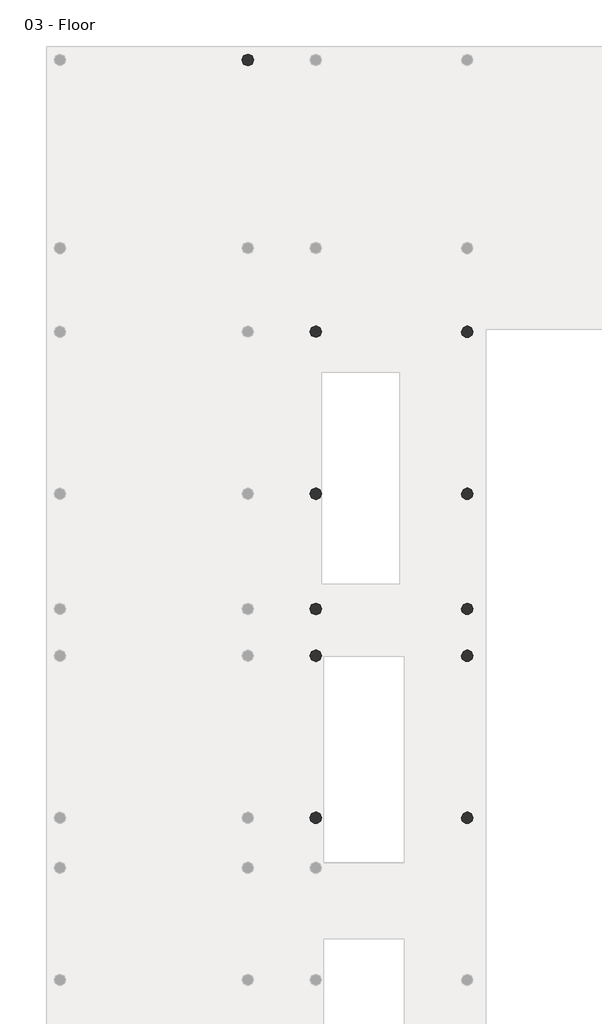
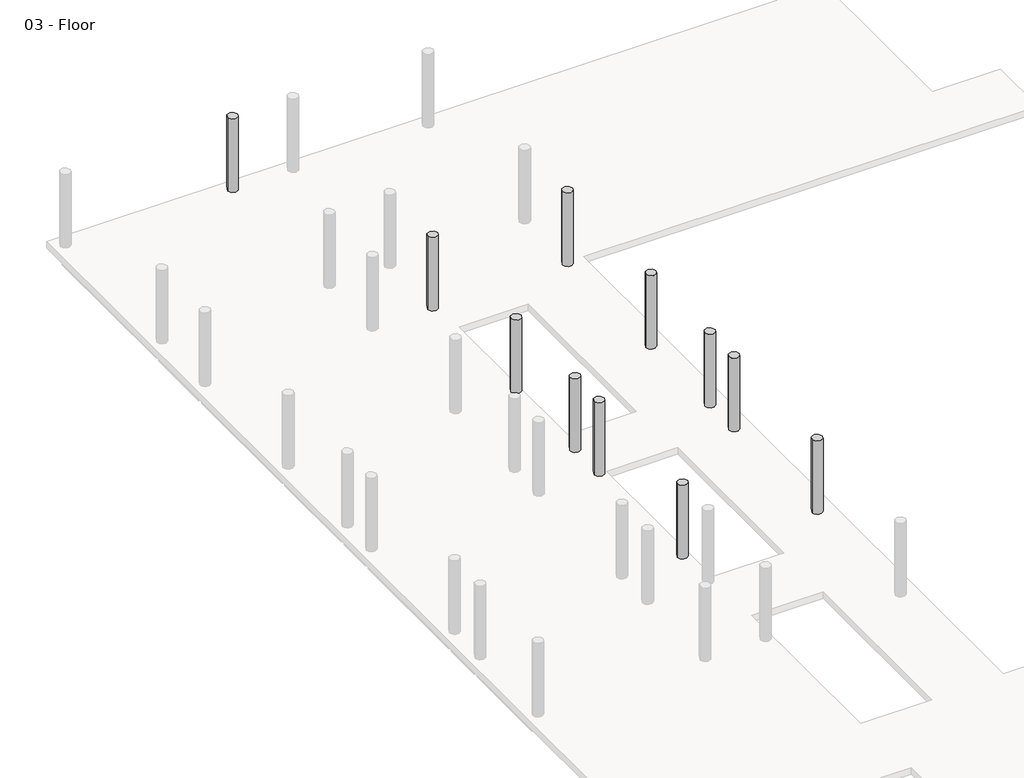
# One storey, part 7 of 8: 14 beams, 11 columns.
"""IFC4 building model written with IfcOpenShell, lengths in millimetres."""

from ifc_helpers import new_model, si_unit, point, frame, frame_2d, origin, place, context, project, spatial, polyline, circle_curve, trimmed, segment, composite_curve, outline, extrude, element, save
from ifc_brep_helpers import plane_surface, revolved_surface, advanced_brep

model = new_model("IFC4")

# Units and contexts
model_context = context("Model", 3, world=origin())
ifc_project = project(units=[si_unit("LENGTHUNIT", "METRE", prefix="MILLI")], contexts=[model_context])

# Site, building, storey
site = spatial("IfcSite", under=ifc_project)
building = spatial("IfcBuilding", under=site)
storey = spatial("IfcBuildingStorey", under=building, Name="03 - Floor", Elevation=7600.0)

# Beams
placement = place(None, origin())
element("IfcBeam", 1, ObjectType="M_Concrete-Rectangular Beam : 400 x 800mm", at=placement, inside=storey, context=model_context, shape_type="AdvancedBrep", body=[
    advanced_brep(
    [(554.8005584, 19324.2609793, 6800.0), (554.8005584, 19227.3386199, 6800.0), (554.8005584, 13328.1386199, 6800.0), (554.8005584, 13231.2162606, 6800.0), (554.8005584, 13231.2162606, 7300.0), (554.8005584, 13328.1386199, 7300.0), (554.8005584, 19227.3386199, 7300.0), (554.8005584, 19324.2609793, 7300.0), (857.878199, 19227.3386199, 6800.0), (954.8005584, 19227.3386199, 6800.0), (954.8005584, 13231.2162606, 6800.0), (954.8005584, 19227.3386199, 7300.0), (954.8005584, 13231.2162606, 7300.0), (857.878199, 19227.3386199, 7300.0)],
    [
        (0, 1),
        (1, 2),
        (2, 3),
        (3, 4),
        (4, 5),
        (5, 6),
        (6, 7),
        (7, 0),
        (0, 8, circle_curve(frame((754.8005584, 19427.3386199, 6800.0), z_axis=(0.0, 0.0, 1.0), x_axis=(-1.0, 0.0, 0.0)), 225.0)),
        (8, 9),
        (9, 10),
        (10, 3, circle_curve(frame((754.8005584, 13128.1386199, 6800.0), z_axis=(0.0, 0.0, 1.0), x_axis=(-1.0, 0.0, 0.0)), 225.0)),
        (9, 11),
        (11, 12),
        (12, 10),
        (7, 13, circle_curve(frame((754.8005584, 19427.3386199, 7300.0), z_axis=(0.0, 0.0, 1.0), x_axis=(-1.0, 0.0, 0.0)), 225.0)),
        (13, 8),
        (13, 11),
        (12, 4, circle_curve(frame((754.8005584, 13128.1386199, 7300.0), z_axis=(0.0, 0.0, 1.0), x_axis=(-1.0, 0.0, 0.0)), 225.0)),
    ],
    [
        plane_surface(frame((554.8005584, 13365.8386199, 7200.0), z_axis=(-1.0, 0.0, 0.0), x_axis=(0.0, 0.0, -1.0))),
        plane_surface(frame((754.8005584, 13365.8386199, 6800.0), z_axis=(0.0, 0.0, -1.0), x_axis=(1.0, 0.0, 0.0))),
        plane_surface(frame((954.8005584, 13365.8386199, 7200.0), z_axis=(1.0, 0.0, 0.0), x_axis=(0.0, 0.0, 1.0))),
        revolved_surface(polyline([(529.8005584, 19427.3386199, 7300.0), (529.8005584, 19427.3386199, 6800.0)]), (754.8005584, 19427.3386199, 3800.0), (0.0, 0.0, 1.0)),
        plane_surface(frame((992.5005584, 19227.3386199, 7200.0), z_axis=(0.0, 1.0, 0.0), x_axis=(0.0, 0.0, 1.0))),
        revolved_surface(polyline([(529.8005584, 13128.1386199, 7300.0), (529.8005584, 13128.1386199, 6800.0)]), (754.8005584, 13128.1386199, 3800.0), (0.0, 0.0, 1.0)),
        plane_surface(frame((24268.8999097, 30514.0407562, 7300.0), z_axis=(0.0, 0.0, 1.0), x_axis=(0.0, -1.0, 0.0))),
    ],
    [
        (0, [[1, 2, 3, 4, 5, 6, 7, 8]]),
        (1, [[9, 10, 11, 12, -3, -2, -1]]),
        (2, [[-11, 13, 14, 15]]),
        (3, [[-9, -8, 16, 17]]),
        (4, [[-10, -17, 18, -13]]),
        (5, [[-12, -15, 19, -4]]),
        (6, [[-7, -6, -5, -19, -14, -18, -16]]),
    ],
),
])
element("IfcBeam", 2, ObjectType="M_Concrete-Rectangular Beam : 400 x 800mm", at=placement, inside=storey, context=model_context, shape_type="AdvancedBrep", body=[
    advanced_brep(
    [(554.8005584, 8752.0162606, 6800.0), (554.8005584, 8752.0162606, 7300.0), (554.8005584, 8848.9386199, 7300.0), (554.8005584, 12928.1386199, 7300.0), (554.8005584, 12928.1386199, 6800.0), (554.8005584, 8848.9386199, 6800.0), (954.8005584, 13025.0609793, 6800.0), (954.8005584, 8848.9386199, 6800.0), (954.8005584, 8752.0162606, 6800.0), (651.7229178, 12928.1386199, 6800.0), (954.8005584, 13025.0609793, 7300.0), (954.8005584, 8848.9386199, 7300.0), (954.8005584, 8752.0162606, 7300.0), (651.7229178, 12928.1386199, 7300.0)],
    [
        (0, 1),
        (1, 2),
        (2, 3),
        (3, 4),
        (4, 5),
        (5, 0),
        (6, 7),
        (7, 8),
        (8, 0, circle_curve(frame((754.8005584, 8648.9386199, 6800.0), z_axis=(0.0, 0.0, 1.0), x_axis=(1.0, 0.0, 0.0)), 225.0)),
        (4, 9),
        (9, 6, circle_curve(frame((754.8005584, 13128.1386199, 6800.0), z_axis=(0.0, 0.0, 1.0), x_axis=(-1.0, 0.0, 0.0)), 225.0)),
        (6, 10),
        (10, 11),
        (11, 12),
        (12, 8),
        (9, 13),
        (13, 10, circle_curve(frame((754.8005584, 13128.1386199, 7300.0), z_axis=(0.0, 0.0, 1.0), x_axis=(-1.0, 0.0, 0.0)), 225.0)),
        (12, 1, circle_curve(frame((754.8005584, 8648.9386199, 7300.0), z_axis=(0.0, 0.0, 1.0), x_axis=(1.0, 0.0, 0.0)), 225.0)),
        (13, 3),
    ],
    [
        plane_surface(frame((554.8005584, 8886.6386199, 7200.0), z_axis=(-1.0, 0.0, 0.0), x_axis=(0.0, 0.0, -1.0))),
        plane_surface(frame((754.8005584, 8886.6386199, 6800.0), z_axis=(0.0, 0.0, -1.0), x_axis=(1.0, 0.0, 0.0))),
        plane_surface(frame((954.8005584, 8886.6386199, 7200.0), z_axis=(1.0, 0.0, 0.0), x_axis=(0.0, 0.0, 1.0))),
        revolved_surface(polyline([(529.8005584, 13128.1386199, 7300.0), (529.8005584, 13128.1386199, 6800.0)]), (754.8005584, 13128.1386199, 3800.0), (0.0, 0.0, 1.0)),
        revolved_surface(polyline([(979.8005584, 8648.9386199, 7300.0), (979.8005584, 8648.9386199, 6800.0)]), (754.8005584, 8648.9386199, 3800.0), (0.0, 0.0, 1.0)),
        plane_surface(frame((24268.8999097, 30514.0407562, 7300.0), z_axis=(0.0, 0.0, 1.0), x_axis=(0.0, -1.0, 0.0))),
        plane_surface(frame((-1649.0994416, 12928.1386199, 7200.0), z_axis=(0.0, 1.0, 0.0), x_axis=(0.0, 0.0, 1.0))),
    ],
    [
        (0, [[1, 2, 3, 4, 5, 6]]),
        (1, [[7, 8, 9, -6, -5, 10, 11]]),
        (2, [[-8, -7, 12, 13, 14, 15]]),
        (3, [[-12, -11, 16, 17]]),
        (4, [[-9, -15, 18, -1]]),
        (5, [[-14, -13, -17, 19, -3, -2, -18]]),
        (6, [[-4, -19, -16, -10]]),
    ],
),
])
element("IfcBeam", 3, ObjectType="M_Concrete-Rectangular Beam : 400 x 800mm", at=placement, inside=storey, context=model_context, shape_type="AdvancedBrep", body=[
    advanced_brep(
    [(554.8005584, 8448.9386199, 6800.0), (554.8005584, 7028.9386199, 6800.0), (554.8005584, 6932.0162606, 6800.0), (554.8005584, 6932.0162606, 7300.0), (554.8005584, 7028.9386199, 7300.0), (554.8005584, 8448.9386199, 7300.0), (954.8005584, 6932.0162606, 6800.0), (651.7229178, 8448.9386199, 6800.0), (954.8005584, 8545.8609793, 6800.0), (954.8005584, 8448.9386199, 6800.0), (954.8005584, 8545.8609793, 7300.0), (954.8005584, 8448.9386199, 7300.0), (954.8005584, 6932.0162606, 7300.0), (651.7229178, 8448.9386199, 7300.0)],
    [
        (0, 1),
        (1, 2),
        (2, 3),
        (3, 4),
        (4, 5),
        (5, 0),
        (6, 2, circle_curve(frame((754.8005584, 6828.9386199, 6800.0), z_axis=(0.0, 0.0, 1.0), x_axis=(-1.0, 0.0, 0.0)), 225.0)),
        (0, 7),
        (7, 8, circle_curve(frame((754.8005584, 8648.9386199, 6800.0), z_axis=(0.0, 0.0, 1.0), x_axis=(1.0, 0.0, 0.0)), 225.0)),
        (8, 9),
        (9, 6),
        (8, 10),
        (10, 11),
        (11, 12),
        (12, 6),
        (12, 3, circle_curve(frame((754.8005584, 6828.9386199, 7300.0), z_axis=(0.0, 0.0, 1.0), x_axis=(-1.0, 0.0, 0.0)), 225.0)),
        (7, 13),
        (13, 10, circle_curve(frame((754.8005584, 8648.9386199, 7300.0), z_axis=(0.0, 0.0, 1.0), x_axis=(1.0, 0.0, 0.0)), 225.0)),
        (5, 13),
    ],
    [
        plane_surface(frame((554.8005584, 7066.6386199, 7200.0), z_axis=(-1.0, 0.0, 0.0), x_axis=(0.0, 0.0, -1.0))),
        plane_surface(frame((754.8005584, 7066.6386199, 6800.0), z_axis=(0.0, 0.0, -1.0), x_axis=(1.0, 0.0, 0.0))),
        plane_surface(frame((954.8005584, 7066.6386199, 7200.0), z_axis=(1.0, 0.0, 0.0), x_axis=(0.0, 0.0, 1.0))),
        revolved_surface(polyline([(529.8005584, 6828.9386199, 7300.0), (529.8005584, 6828.9386199, 6800.0)]), (754.8005584, 6828.9386199, 3800.0), (0.0, 0.0, 1.0)),
        revolved_surface(polyline([(979.8005584, 8648.9386199, 7300.0), (979.8005584, 8648.9386199, 6800.0)]), (754.8005584, 8648.9386199, 3800.0), (0.0, 0.0, 1.0)),
        plane_surface(frame((517.1005584, 8448.9386199, 7200.0), z_axis=(0.0, 1.0, 0.0), x_axis=(0.0, 0.0, -1.0))),
        plane_surface(frame((24268.8999097, 30514.0407562, 7300.0), z_axis=(0.0, 0.0, 1.0), x_axis=(0.0, -1.0, 0.0))),
    ],
    [
        (0, [[1, 2, 3, 4, 5, 6]]),
        (1, [[7, -2, -1, 8, 9, 10, 11]]),
        (2, [[-11, -10, 12, 13, 14, 15]]),
        (3, [[-7, -15, 16, -3]]),
        (4, [[-9, 17, 18, -12]]),
        (5, [[-8, -6, 19, -17]]),
        (6, [[-5, -4, -16, -14, -13, -18, -19]]),
    ],
),
])
element("IfcBeam", 4, ObjectType="M_Concrete-Rectangular Beam : 400 x 800mm", at=placement, inside=storey, context=model_context, shape_type="AdvancedBrep", body=[
    advanced_brep(
    [(554.8005584, 632.8162606, 6800.0), (554.8005584, 632.8162606, 7300.0), (554.8005584, 729.7386199, 7300.0), (554.8005584, 6628.9386199, 7300.0), (554.8005584, 6628.9386199, 6800.0), (554.8005584, 729.7386199, 6800.0), (954.8005584, 6725.8609793, 6800.0), (954.8005584, 632.8162606, 6800.0), (651.7229178, 6628.9386199, 6800.0), (954.8005584, 6725.8609793, 7300.0), (954.8005584, 632.8162606, 7300.0), (651.7229178, 6628.9386199, 7300.0)],
    [
        (0, 1),
        (1, 2),
        (2, 3),
        (3, 4),
        (4, 5),
        (5, 0),
        (6, 7),
        (7, 0, circle_curve(frame((754.8005584, 529.7386199, 6800.0), z_axis=(0.0, 0.0, 1.0), x_axis=(-1.0, 0.0, 0.0)), 225.0)),
        (4, 8),
        (8, 6, circle_curve(frame((754.8005584, 6828.9386199, 6800.0), z_axis=(0.0, 0.0, 1.0), x_axis=(-1.0, 0.0, 0.0)), 225.0)),
        (6, 9),
        (9, 10),
        (10, 7),
        (8, 11),
        (11, 9, circle_curve(frame((754.8005584, 6828.9386199, 7300.0), z_axis=(0.0, 0.0, 1.0), x_axis=(-1.0, 0.0, 0.0)), 225.0)),
        (10, 1, circle_curve(frame((754.8005584, 529.7386199, 7300.0), z_axis=(0.0, 0.0, 1.0), x_axis=(-1.0, 0.0, 0.0)), 225.0)),
        (11, 3),
    ],
    [
        plane_surface(frame((554.8005584, 767.4386199, 7200.0), z_axis=(-1.0, 0.0, 0.0), x_axis=(0.0, 0.0, -1.0))),
        plane_surface(frame((754.8005584, 767.4386199, 6800.0), z_axis=(0.0, 0.0, -1.0), x_axis=(1.0, 0.0, 0.0))),
        plane_surface(frame((954.8005584, 767.4386199, 7200.0), z_axis=(1.0, 0.0, 0.0), x_axis=(0.0, 0.0, 1.0))),
        revolved_surface(polyline([(529.8005584, 6828.9386199, 7300.0), (529.8005584, 6828.9386199, 6800.0)]), (754.8005584, 6828.9386199, 3800.0), (0.0, 0.0, 1.0)),
        revolved_surface(polyline([(529.8005584, 529.7386199, 7300.0), (529.8005584, 529.7386199, 6800.0)]), (754.8005584, 529.7386199, 3800.0), (0.0, 0.0, 1.0)),
        plane_surface(frame((24268.8999097, 30514.0407562, 7300.0), z_axis=(0.0, 0.0, 1.0), x_axis=(0.0, -1.0, 0.0))),
        plane_surface(frame((-1649.0994416, 6628.9386199, 7200.0), z_axis=(0.0, 1.0, 0.0), x_axis=(0.0, 0.0, 1.0))),
    ],
    [
        (0, [[1, 2, 3, 4, 5, 6]]),
        (1, [[7, 8, -6, -5, 9, 10]]),
        (2, [[-7, 11, 12, 13]]),
        (3, [[-11, -10, 14, 15]]),
        (4, [[-8, -13, 16, -1]]),
        (5, [[-12, -15, 17, -3, -2, -16]]),
        (6, [[-4, -17, -14, -9]]),
    ],
),
])
element("IfcBeam", 5, ObjectType="M_Concrete-Rectangular Beam : 400 x 800mm", at=placement, inside=storey, context=model_context, shape_type="SweptSolid", body=[
    extrude(outline(composite_curve([segment(polyline([(6447.6005584, 19227.3386199), (6544.5229178, 19227.3386199)]), True, "CONTINUOUS"), segment(trimmed(circle_curve(frame_2d((6647.6005584, 19427.3386199)), 225.0), [point((6544.5229178, 19227.3386199))], [point((6847.6005584, 19324.2609793))], True, "CARTESIAN"), True, "CONTINUOUS"), segment(polyline([(6847.6005584, 19324.2609793), (6847.6005584, 13231.2162606)]), True, "CONTINUOUS"), segment(trimmed(circle_curve(frame_2d((6647.6005584, 13128.1386199)), 225.0), [point((6847.6005584, 13231.2162606))], [point((6447.6005584, 13231.2162606))], True, "CARTESIAN"), True, "CONTINUOUS"), segment(polyline([(6447.6005584, 13231.2162606), (6447.6005584, 19227.3386199)]), True, "CONTINUOUS")], self_intersect=False)), frame((0.0, 0.0, 6800.0), z_axis=(0.0, 0.0, 1.0), x_axis=(1.0, 0.0, 0.0)), (0.0, 0.0, 1.0), 500.0),
])
element("IfcBeam", 6, ObjectType="M_Concrete-Rectangular Beam : 400 x 800mm", at=placement, inside=storey, context=model_context, shape_type="AdvancedBrep", body=[
    advanced_brep(
    [(6447.6005584, 13025.0609793, 6800.0), (6447.6005584, 8848.9386199, 6800.0), (6447.6005584, 8752.0162606, 6800.0), (6447.6005584, 8752.0162606, 7300.0), (6447.6005584, 8848.9386199, 7300.0), (6447.6005584, 13025.0609793, 7300.0), (6847.6005584, 13025.0609793, 6800.0), (6847.6005584, 8752.0162606, 6800.0), (6847.6005584, 13025.0609793, 7300.0), (6847.6005584, 8752.0162606, 7300.0)],
    [
        (0, 1),
        (1, 2),
        (2, 3),
        (3, 4),
        (4, 5),
        (5, 0),
        (0, 6, circle_curve(frame((6647.6005584, 13128.1386199, 6800.0), z_axis=(0.0, 0.0, 1.0), x_axis=(-1.0, 0.0, 0.0)), 225.0)),
        (6, 7),
        (7, 2, circle_curve(frame((6647.6005584, 8648.9386199, 6800.0), z_axis=(0.0, 0.0, 1.0), x_axis=(1.0, 0.0, 0.0)), 225.0)),
        (6, 8),
        (8, 9),
        (9, 7),
        (5, 8, circle_curve(frame((6647.6005584, 13128.1386199, 7300.0), z_axis=(0.0, 0.0, 1.0), x_axis=(-1.0, 0.0, 0.0)), 225.0)),
        (9, 3, circle_curve(frame((6647.6005584, 8648.9386199, 7300.0), z_axis=(0.0, 0.0, 1.0), x_axis=(1.0, 0.0, 0.0)), 225.0)),
    ],
    [
        plane_surface(frame((6447.6005584, 8886.6386199, 7200.0), z_axis=(-1.0, 0.0, 0.0), x_axis=(0.0, 0.0, -1.0))),
        plane_surface(frame((6647.6005584, 8886.6386199, 6800.0), z_axis=(0.0, 0.0, -1.0), x_axis=(1.0, 0.0, 0.0))),
        plane_surface(frame((6847.6005584, 8886.6386199, 7200.0), z_axis=(1.0, 0.0, 0.0), x_axis=(0.0, 0.0, 1.0))),
        revolved_surface(polyline([(6422.6005584, 13128.1386199, 7300.0), (6422.6005584, 13128.1386199, 6800.0)]), (6647.6005584, 13128.1386199, 3800.0), (0.0, 0.0, 1.0)),
        revolved_surface(polyline([(6872.6005584, 8648.9386199, 7300.0), (6872.6005584, 8648.9386199, 6800.0)]), (6647.6005584, 8648.9386199, 3800.0), (0.0, 0.0, 1.0)),
        plane_surface(frame((24268.8999097, 30514.0407562, 7300.0), z_axis=(0.0, 0.0, 1.0), x_axis=(0.0, -1.0, 0.0))),
    ],
    [
        (0, [[1, 2, 3, 4, 5, 6]]),
        (1, [[7, 8, 9, -2, -1]]),
        (2, [[-8, 10, 11, 12]]),
        (3, [[-7, -6, 13, -10]]),
        (4, [[-9, -12, 14, -3]]),
        (5, [[-5, -4, -14, -11, -13]]),
    ],
),
])
element("IfcBeam", 7, ObjectType="M_Concrete-Rectangular Beam : 400 x 800mm", at=placement, inside=storey, context=model_context, shape_type="SweptSolid", body=[
    extrude(outline(composite_curve([segment(trimmed(circle_curve(frame_2d((6647.6005584, 6828.9386199)), 225.0), [point((6847.6005584, 6932.0162606))], [point((6447.6005584, 6932.0162606))], True, "CARTESIAN"), True, "CONTINUOUS"), segment(polyline([(6447.6005584, 6932.0162606), (6447.6005584, 8448.9386199), (6544.5229178, 8448.9386199)]), True, "CONTINUOUS"), segment(trimmed(circle_curve(frame_2d((6647.6005584, 8648.9386199)), 225.0), [point((6544.5229178, 8448.9386199))], [point((6847.6005584, 8545.8609793))], True, "CARTESIAN"), True, "CONTINUOUS"), segment(polyline([(6847.6005584, 8545.8609793), (6847.6005584, 6932.0162606)]), True, "CONTINUOUS")], self_intersect=False)), frame((0.0, 0.0, 6800.0), z_axis=(0.0, 0.0, 1.0), x_axis=(1.0, 0.0, 0.0)), (0.0, 0.0, 1.0), 500.0),
])
element("IfcBeam", 8, ObjectType="M_Concrete-Rectangular Beam : 400 x 800mm", at=placement, inside=storey, context=model_context, shape_type="SweptSolid", body=[
    extrude(outline(composite_curve([segment(trimmed(circle_curve(frame_2d((6647.6005584, 6828.9386199)), 225.0), [point((6447.6005584, 6725.8609793))], [point((6847.6005584, 6725.8609793))], True, "CARTESIAN"), True, "CONTINUOUS"), segment(polyline([(6847.6005584, 6725.8609793), (6847.6005584, 632.8162606)]), True, "CONTINUOUS"), segment(trimmed(circle_curve(frame_2d((6647.6005584, 529.7386199)), 225.0), [point((6847.6005584, 632.8162606))], [point((6447.6005584, 632.8162606))], True, "CARTESIAN"), True, "CONTINUOUS"), segment(polyline([(6447.6005584, 632.8162606), (6447.6005584, 6725.8609793)]), True, "CONTINUOUS")], self_intersect=False)), frame((0.0, 0.0, 6800.0), z_axis=(0.0, 0.0, 1.0), x_axis=(1.0, 0.0, 0.0)), (0.0, 0.0, 1.0), 500.0),
])
element("IfcBeam", 9, ObjectType="M_Concrete-Rectangular Beam : 400 x 800mm", at=placement, inside=storey, context=model_context, shape_type="SweptSolid", body=[
    extrude(outline(composite_curve([segment(polyline([(554.8005584, 29890.6609793), (554.8005584, 29793.7386199), (-1586.7994416, 29793.7386199), (-1586.7994416, 30193.7386199), (651.7229178, 30193.7386199)]), True, "CONTINUOUS"), segment(trimmed(circle_curve(frame_2d((754.8005584, 29993.7386199)), 225.0), [point((651.7229178, 30193.7386199))], [point((529.8005584, 29993.7386199))], True, "CARTESIAN"), True, "CONTINUOUS"), segment(trimmed(circle_curve(frame_2d((754.8005584, 29993.7386199)), 225.0), [point((529.8005584, 29993.7386199))], [point((554.8005584, 29890.6609793))], True, "CARTESIAN"), True, "CONTINUOUS")], self_intersect=False)), frame((0.0, 0.0, 6800.0), z_axis=(0.0, 0.0, 1.0), x_axis=(1.0, 0.0, 0.0)), (0.0, 0.0, 1.0), 500.0),
])
element("IfcBeam", 10, ObjectType="M_Concrete-Rectangular Beam : 400 x 800mm", at=placement, inside=storey, context=model_context, shape_type="SweptSolid", body=[
    extrude(outline(composite_curve([segment(polyline([(-9001.9994416, 29793.7386199), (-9001.9994416, 29890.6609793)]), True, "CONTINUOUS"), segment(trimmed(circle_curve(frame_2d((-9201.9994416, 29993.7386199)), 225.0), [point((-9001.9994416, 29890.6609793))], [point((-8976.9994416, 29993.7386199))], True, "CARTESIAN"), True, "CONTINUOUS"), segment(trimmed(circle_curve(frame_2d((-9201.9994416, 29993.7386199)), 225.0), [point((-8976.9994416, 29993.7386199))], [point((-9098.921801, 30193.7386199))], True, "CARTESIAN"), True, "CONTINUOUS"), segment(polyline([(-9098.921801, 30193.7386199), (-2186.7994416, 30193.7386199), (-2186.7994416, 29793.7386199), (-9001.9994416, 29793.7386199)]), True, "CONTINUOUS")], self_intersect=False)), frame((0.0, 0.0, 6800.0), z_axis=(0.0, 0.0, 1.0), x_axis=(1.0, 0.0, 0.0)), (0.0, 0.0, 1.0), 500.0),
])
element("IfcBeam", 11, ObjectType="M_Concrete-Rectangular Beam : 400 x 800mm", at=placement, inside=storey, context=model_context, shape_type="AdvancedBrep", body=[
    advanced_brep(
    [(6447.6005584, 19627.3386199, 6800.0), (954.8005584, 19627.3386199, 6800.0), (954.8005584, 19627.3386199, 7300.0), (6447.6005584, 19627.3386199, 7300.0), (857.878199, 19227.3386199, 6800.0), (979.8005584, 19427.3386199, 6800.0), (954.8005584, 19530.4162606, 6800.0), (6447.6005584, 19530.4162606, 6800.0), (6422.6005584, 19427.3386199, 6800.0), (6544.5229178, 19227.3386199, 6800.0), (6447.6005584, 19227.3386199, 6800.0), (954.8005584, 19227.3386199, 6800.0), (6544.5229178, 19227.3386199, 7300.0), (6447.6005584, 19227.3386199, 7300.0), (954.8005584, 19227.3386199, 7300.0), (857.878199, 19227.3386199, 7300.0), (979.8005584, 19427.3386199, 7300.0), (954.8005584, 19530.4162606, 7300.0), (6422.6005584, 19427.3386199, 7300.0), (6447.6005584, 19530.4162606, 7300.0)],
    [
        (0, 1),
        (1, 2),
        (2, 3),
        (3, 0),
        (4, 5, circle_curve(frame((754.8005584, 19427.3386199, 6800.0), z_axis=(0.0, 0.0, 1.0), x_axis=(-1.0, 0.0, 0.0)), 225.0)),
        (5, 6, circle_curve(frame((754.8005584, 19427.3386199, 6800.0), z_axis=(0.0, 0.0, 1.0), x_axis=(-1.0, 0.0, 0.0)), 225.0)),
        (6, 1),
        (0, 7),
        (7, 8, circle_curve(frame((6647.6005584, 19427.3386199, 6800.0), z_axis=(0.0, 0.0, 1.0), x_axis=(-1.0, 0.0, 0.0)), 225.0)),
        (8, 9, circle_curve(frame((6647.6005584, 19427.3386199, 6800.0), z_axis=(0.0, 0.0, 1.0), x_axis=(-1.0, 0.0, 0.0)), 225.0)),
        (9, 10),
        (10, 11),
        (11, 4),
        (9, 12),
        (12, 13),
        (13, 14),
        (14, 15),
        (15, 4),
        (15, 16, circle_curve(frame((754.8005584, 19427.3386199, 7300.0), z_axis=(0.0, 0.0, 1.0), x_axis=(-1.0, 0.0, 0.0)), 225.0)),
        (16, 5),
        (16, 17, circle_curve(frame((754.8005584, 19427.3386199, 7300.0), z_axis=(0.0, 0.0, 1.0), x_axis=(-1.0, 0.0, 0.0)), 225.0)),
        (17, 6),
        (8, 18),
        (18, 12, circle_curve(frame((6647.6005584, 19427.3386199, 7300.0), z_axis=(0.0, 0.0, 1.0), x_axis=(-1.0, 0.0, 0.0)), 225.0)),
        (7, 19),
        (19, 18, circle_curve(frame((6647.6005584, 19427.3386199, 7300.0), z_axis=(0.0, 0.0, 1.0), x_axis=(-1.0, 0.0, 0.0)), 225.0)),
        (17, 2),
        (3, 19),
    ],
    [
        plane_surface(frame((992.5005584, 19627.3386199, 7200.0), z_axis=(0.0, 1.0, 0.0), x_axis=(0.0, 0.0, -1.0))),
        plane_surface(frame((992.5005584, 19427.3386199, 6800.0), z_axis=(0.0, 0.0, -1.0), x_axis=(0.0, -1.0, 0.0))),
        plane_surface(frame((992.5005584, 19227.3386199, 7200.0), z_axis=(0.0, -1.0, 0.0), x_axis=(0.0, 0.0, 1.0))),
        revolved_surface(polyline([(529.8005584, 19427.3386199, 7300.0), (529.8005584, 19427.3386199, 6800.0)]), (754.8005584, 19427.3386199, 3800.0), (0.0, 0.0, 1.0)),
        revolved_surface(polyline([(6422.6005584, 19427.3386199, 7300.0), (6422.6005584, 19427.3386199, 6800.0)]), (6647.6005584, 19427.3386199, 3800.0), (0.0, 0.0, 1.0)),
        plane_surface(frame((954.8005584, 19665.0386199, 7200.0), z_axis=(-1.0, 0.0, 0.0), x_axis=(0.0, 0.0, 1.0))),
        plane_surface(frame((6447.6005584, 19665.0386199, 7200.0), z_axis=(1.0, 0.0, 0.0), x_axis=(0.0, 0.0, -1.0))),
        plane_surface(frame((24268.8999097, 30514.0407562, 7300.0), z_axis=(0.0, 0.0, 1.0), x_axis=(0.0, -1.0, 0.0))),
    ],
    [
        (0, [[1, 2, 3, 4]]),
        (1, [[5, 6, 7, -1, 8, 9, 10, 11, 12, 13]]),
        (2, [[-13, -12, -11, 14, 15, 16, 17, 18]]),
        (3, [[-5, -18, 19, 20]]),
        (3, [[-6, -20, 21, 22]]),
        (4, [[-10, 23, 24, -14]]),
        (4, [[-9, 25, 26, -23]]),
        (5, [[-7, -22, 27, -2]]),
        (6, [[-8, -4, 28, -25]]),
        (7, [[-3, -27, -21, -19, -17, -16, -15, -24, -26, -28]]),
    ],
),
])
element("IfcBeam", 12, ObjectType="M_Concrete-Rectangular Beam : 400 x 800mm", at=placement, inside=storey, context=model_context, shape_type="AdvancedBrep", body=[
    advanced_brep(
    [(954.8005584, 8448.9386199, 6800.0), (6447.6005584, 8448.9386199, 6800.0), (6544.5229178, 8448.9386199, 6800.0), (6544.5229178, 8448.9386199, 7300.0), (6447.6005584, 8448.9386199, 7300.0), (954.8005584, 8448.9386199, 7300.0), (954.8005584, 8545.8609793, 6800.0), (979.8005584, 8648.9386199, 6800.0), (954.8005584, 8752.0162606, 6800.0), (954.8005584, 8848.9386199, 6800.0), (6447.6005584, 8848.9386199, 6800.0), (6447.6005584, 8752.0162606, 6800.0), (6422.6005584, 8648.9386199, 6800.0), (954.8005584, 8848.9386199, 7300.0), (6447.6005584, 8848.9386199, 7300.0), (979.8005584, 8648.9386199, 7300.0), (954.8005584, 8752.0162606, 7300.0), (954.8005584, 8545.8609793, 7300.0), (6447.6005584, 8752.0162606, 7300.0), (6422.6005584, 8648.9386199, 7300.0)],
    [
        (0, 1),
        (1, 2),
        (2, 3),
        (3, 4),
        (4, 5),
        (5, 0),
        (6, 7, circle_curve(frame((754.8005584, 8648.9386199, 6800.0), z_axis=(0.0, 0.0, 1.0), x_axis=(1.0, 0.0, 0.0)), 225.0)),
        (7, 8, circle_curve(frame((754.8005584, 8648.9386199, 6800.0), z_axis=(0.0, 0.0, 1.0), x_axis=(1.0, 0.0, 0.0)), 225.0)),
        (8, 9),
        (9, 10),
        (10, 11),
        (11, 12, circle_curve(frame((6647.6005584, 8648.9386199, 6800.0), z_axis=(0.0, 0.0, 1.0), x_axis=(1.0, 0.0, 0.0)), 225.0)),
        (12, 2, circle_curve(frame((6647.6005584, 8648.9386199, 6800.0), z_axis=(0.0, 0.0, 1.0), x_axis=(1.0, 0.0, 0.0)), 225.0)),
        (0, 6),
        (9, 13),
        (13, 14),
        (14, 10),
        (7, 15),
        (15, 16, circle_curve(frame((754.8005584, 8648.9386199, 7300.0), z_axis=(0.0, 0.0, 1.0), x_axis=(1.0, 0.0, 0.0)), 225.0)),
        (16, 8),
        (6, 17),
        (17, 15, circle_curve(frame((754.8005584, 8648.9386199, 7300.0), z_axis=(0.0, 0.0, 1.0), x_axis=(1.0, 0.0, 0.0)), 225.0)),
        (5, 17),
        (16, 13),
        (11, 18),
        (18, 19, circle_curve(frame((6647.6005584, 8648.9386199, 7300.0), z_axis=(0.0, 0.0, 1.0), x_axis=(1.0, 0.0, 0.0)), 225.0)),
        (19, 12),
        (19, 3, circle_curve(frame((6647.6005584, 8648.9386199, 7300.0), z_axis=(0.0, 0.0, 1.0), x_axis=(1.0, 0.0, 0.0)), 225.0)),
        (14, 18),
    ],
    [
        plane_surface(frame((6409.9005584, 8448.9386199, 7200.0), z_axis=(0.0, -1.0, 0.0), x_axis=(0.0, 0.0, -1.0))),
        plane_surface(frame((6409.9005584, 8648.9386199, 6800.0), z_axis=(0.0, 0.0, -1.0), x_axis=(0.0, 1.0, 0.0))),
        plane_surface(frame((6409.9005584, 8848.9386199, 7200.0), z_axis=(0.0, 1.0, 0.0), x_axis=(0.0, 0.0, 1.0))),
        revolved_surface(polyline([(979.8005584, 8648.9386199, 7300.0), (979.8005584, 8648.9386199, 6800.0)]), (754.8005584, 8648.9386199, 3800.0), (0.0, 0.0, 1.0)),
        plane_surface(frame((954.8005584, 7066.6386199, 7200.0), z_axis=(-1.0, 0.0, 0.0), x_axis=(0.0, 0.0, 1.0))),
        plane_surface(frame((954.8005584, 8886.6386199, 7200.0), z_axis=(-1.0, 0.0, 0.0), x_axis=(0.0, 0.0, 1.0))),
        revolved_surface(polyline([(6872.6005584, 8648.9386199, 7300.0), (6872.6005584, 8648.9386199, 6800.0)]), (6647.6005584, 8648.9386199, 3800.0), (0.0, 0.0, 1.0)),
        plane_surface(frame((6447.6005584, 8886.6386199, 7200.0), z_axis=(1.0, 0.0, 0.0), x_axis=(0.0, 0.0, -1.0))),
        plane_surface(frame((24268.8999097, 30514.0407562, 7300.0), z_axis=(0.0, 0.0, 1.0), x_axis=(0.0, -1.0, 0.0))),
    ],
    [
        (0, [[1, 2, 3, 4, 5, 6]]),
        (1, [[7, 8, 9, 10, 11, 12, 13, -2, -1, 14]]),
        (2, [[-10, 15, 16, 17]]),
        (3, [[-8, 18, 19, 20]]),
        (3, [[-7, 21, 22, -18]]),
        (4, [[-14, -6, 23, -21]]),
        (5, [[-9, -20, 24, -15]]),
        (6, [[-12, 25, 26, 27]]),
        (6, [[-13, -27, 28, -3]]),
        (7, [[-11, -17, 29, -25]]),
        (8, [[-5, -4, -28, -26, -29, -16, -24, -19, -22, -23]]),
    ],
),
])
element("IfcBeam", 13, ObjectType="M_Concrete-Rectangular Beam : 400 x 800mm", at=placement, inside=storey, context=model_context, shape_type="SweptSolid", body=[
    extrude(outline(polyline([(-9001.9994416, 27964.9386199), (-9001.9994416, 28364.9386199), (-2186.7994416, 28364.9386199), (-2186.7994416, 27964.9386199), (-9001.9994416, 27964.9386199)])), frame((0.0, 0.0, 6800.0), z_axis=(0.0, 0.0, 1.0), x_axis=(1.0, 0.0, 0.0)), (0.0, 0.0, 1.0), 500.0),
])
element("IfcBeam", 14, ObjectType="M_Concrete-Rectangular Beam : 600 x 900", at=placement, inside=storey, context=model_context, shape_type="AdvancedBrep", body=[
    advanced_brep(
    [(-2186.7994416, 30193.7386199, 6700.0), (-2186.7994416, 22478.5386199, 6700.0), (-2186.7994416, 22478.5386199, 6800.0), (-2186.7994416, 22478.5386199, 7300.0), (-2186.7994416, 22878.5386199, 7300.0), (-2186.7994416, 24307.3386199, 7300.0), (-2186.7994416, 24707.3386199, 7300.0), (-2186.7994416, 26136.1386199, 7300.0), (-2186.7994416, 26536.1386199, 7300.0), (-2186.7994416, 27964.9386199, 7300.0), (-2186.7994416, 28364.9386199, 7300.0), (-2186.7994416, 29793.7386199, 7300.0), (-2186.7994416, 30193.7386199, 7300.0), (-2186.7994416, 30193.7386199, 6800.0), (-1989.8770822, 30193.7386199, 6700.0), (-2111.7994416, 29993.7386199, 6700.0), (-1661.7994416, 29993.7386199, 6700.0), (-1783.721801, 30193.7386199, 6700.0), (-1586.7994416, 30193.7386199, 6700.0), (-1586.7994416, 22478.5386199, 6700.0), (-1783.721801, 22478.5386199, 6700.0), (-1661.7994416, 22678.5386199, 6700.0), (-2111.7994416, 22678.5386199, 6700.0), (-1989.8770822, 22478.5386199, 6700.0), (-1586.7994416, 30193.7386199, 6800.0), (-1586.7994416, 30193.7386199, 7300.0), (-1586.7994416, 29793.7386199, 7300.0), (-1586.7994416, 22878.5386199, 7300.0), (-1586.7994416, 22478.5386199, 7300.0), (-1586.7994416, 22478.5386199, 6800.0), (-1783.721801, 30193.7386199, 7300.0), (-1783.721801, 22478.5386199, 7300.0), (-2111.7994416, 29993.7386199, 7300.0), (-1661.7994416, 29993.7386199, 7300.0), (-1989.8770822, 30193.7386199, 7300.0), (-2111.7994416, 22678.5386199, 7300.0), (-1989.8770822, 22478.5386199, 7300.0), (-1661.7994416, 22678.5386199, 7300.0)],
    [
        (0, 1),
        (1, 2),
        (2, 3),
        (3, 4),
        (4, 5),
        (5, 6),
        (6, 7),
        (7, 8),
        (8, 9),
        (9, 10),
        (10, 11),
        (11, 12),
        (12, 13),
        (13, 0),
        (0, 14),
        (14, 15, circle_curve(frame((-1886.7994416, 29993.7386199, 6700.0), z_axis=(0.0, 0.0, 1.0), x_axis=(-1.0, 0.0, 0.0)), 225.0)),
        (15, 16, circle_curve(frame((-1886.7994416, 29993.7386199, 6700.0), z_axis=(0.0, 0.0, 1.0), x_axis=(-1.0, 0.0, 0.0)), 225.0)),
        (16, 17, circle_curve(frame((-1886.7994416, 29993.7386199, 6700.0), z_axis=(0.0, 0.0, 1.0), x_axis=(-1.0, 0.0, 0.0)), 225.0)),
        (17, 18),
        (18, 19),
        (19, 20),
        (20, 21, circle_curve(frame((-1886.7994416, 22678.5386199, 6700.0), z_axis=(0.0, 0.0, 1.0), x_axis=(-1.0, 0.0, 0.0)), 225.0)),
        (21, 22, circle_curve(frame((-1886.7994416, 22678.5386199, 6700.0), z_axis=(0.0, 0.0, 1.0), x_axis=(-1.0, 0.0, 0.0)), 225.0)),
        (22, 23, circle_curve(frame((-1886.7994416, 22678.5386199, 6700.0), z_axis=(0.0, 0.0, 1.0), x_axis=(-1.0, 0.0, 0.0)), 225.0)),
        (23, 1),
        (18, 24),
        (24, 25),
        (25, 26),
        (26, 27),
        (27, 28),
        (28, 29),
        (29, 19),
        (17, 30),
        (30, 25),
        (28, 31),
        (31, 20),
        (15, 32),
        (32, 33, circle_curve(frame((-1886.7994416, 29993.7386199, 7300.0), z_axis=(0.0, 0.0, 1.0), x_axis=(-1.0, 0.0, 0.0)), 225.0)),
        (33, 16),
        (33, 30, circle_curve(frame((-1886.7994416, 29993.7386199, 7300.0), z_axis=(0.0, 0.0, 1.0), x_axis=(-1.0, 0.0, 0.0)), 225.0)),
        (12, 34),
        (34, 14),
        (34, 32, circle_curve(frame((-1886.7994416, 29993.7386199, 7300.0), z_axis=(0.0, 0.0, 1.0), x_axis=(-1.0, 0.0, 0.0)), 225.0)),
        (22, 35),
        (35, 36, circle_curve(frame((-1886.7994416, 22678.5386199, 7300.0), z_axis=(0.0, 0.0, 1.0), x_axis=(-1.0, 0.0, 0.0)), 225.0)),
        (36, 23),
        (21, 37),
        (37, 35, circle_curve(frame((-1886.7994416, 22678.5386199, 7300.0), z_axis=(0.0, 0.0, 1.0), x_axis=(-1.0, 0.0, 0.0)), 225.0)),
        (36, 3),
        (31, 37, circle_curve(frame((-1886.7994416, 22678.5386199, 7300.0), z_axis=(0.0, 0.0, 1.0), x_axis=(-1.0, 0.0, 0.0)), 225.0)),
    ],
    [
        plane_surface(frame((-2186.7994416, 22916.2386199, 7600.0), z_axis=(-1.0, 0.0, 0.0), x_axis=(0.0, 1.0, 0.0))),
        plane_surface(frame((-2186.7994416, 22916.2386199, 6700.0), z_axis=(0.0, 0.0, -1.0), x_axis=(0.0, 1.0, 0.0))),
        plane_surface(frame((-1586.7994416, 22916.2386199, 6700.0), z_axis=(1.0, 0.0, 0.0), x_axis=(0.0, 1.0, 0.0))),
        plane_surface(frame((-1562.8703581, 30193.7386199, 6800.0), z_axis=(0.0, 1.0, 0.0), x_axis=(-1.0, 0.0, 0.0))),
        plane_surface(frame((-1562.8703581, 22478.5386199, 7600.0), z_axis=(0.0, -1.0, 0.0), x_axis=(-1.0, 0.0, 0.0))),
        revolved_surface(polyline([(-2111.7994416, 29993.7386199, 7300.0), (-2111.7994416, 29993.7386199, 6700.0)]), (-1886.7994416, 29993.7386199, 3800.0), (0.0, 0.0, 1.0)),
        revolved_surface(polyline([(-2111.7994416, 22678.5386199, 7300.0), (-2111.7994416, 22678.5386199, 6700.0)]), (-1886.7994416, 22678.5386199, 3800.0), (0.0, 0.0, 1.0)),
        plane_surface(frame((24268.8999097, 30514.0407562, 7300.0), z_axis=(0.0, 0.0, 1.0), x_axis=(0.0, -1.0, 0.0))),
    ],
    [
        (0, [[1, 2, 3, 4, 5, 6, 7, 8, 9, 10, 11, 12, 13, 14]]),
        (1, [[-1, 15, 16, 17, 18, 19, 20, 21, 22, 23, 24, 25]]),
        (2, [[-20, 26, 27, 28, 29, 30, 31, 32]]),
        (3, [[-19, 33, 34, -27, -26]]),
        (4, [[-21, -32, -31, 35, 36]]),
        (5, [[-17, 37, 38, 39]]),
        (5, [[-18, -39, 40, -33]]),
        (3, [[-15, -14, -13, 41, 42]]),
        (5, [[-16, -42, 43, -37]]),
        (6, [[-24, 44, 45, 46]]),
        (6, [[-23, 47, 48, -44]]),
        (4, [[-25, -46, 49, -3, -2]]),
        (6, [[-22, -36, 50, -47]]),
        (7, [[-12, -11, -10, -9, -8, -7, -6, -5, -4, -49, -45, -48, -50, -35, -30, -29, -28, -34, -40, -38, -43, -41]]),
    ],
),
])

# Columns
element("IfcColumn", 15, ObjectType="M_Concrete-Round-Column : 450mm", at=placement, inside=storey, context=model_context, shape_type="SweptSolid", body=[
    extrude(outline(composite_curve([segment(trimmed(circle_curve(frame_2d((754.8005584, 19427.3386199)), 225.0), [point((979.8005584, 19427.3386199))], [point((529.8005584, 19427.3386199))], False, "CARTESIAN"), True, "CONTINUOUS"), segment(trimmed(circle_curve(frame_2d((754.8005584, 19427.3386199)), 225.0), [point((529.8005584, 19427.3386199))], [point((979.8005584, 19427.3386199))], False, "CARTESIAN"), True, "CONTINUOUS")], self_intersect=False)), frame((0.0, 0.0, 7600.0), z_axis=(0.0, 0.0, 1.0), x_axis=(1.0, 0.0, 0.0)), (0.0, 0.0, 1.0), 3400.0),
])
element("IfcColumn", 16, ObjectType="M_Concrete-Round-Column : 450mm", at=placement, inside=storey, context=model_context, shape_type="SweptSolid", body=[
    extrude(outline(composite_curve([segment(trimmed(circle_curve(frame_2d((754.8005584, 13128.1386199)), 225.0), [point((979.8005584, 13128.1386199))], [point((529.8005584, 13128.1386199))], False, "CARTESIAN"), True, "CONTINUOUS"), segment(trimmed(circle_curve(frame_2d((754.8005584, 13128.1386199)), 225.0), [point((529.8005584, 13128.1386199))], [point((979.8005584, 13128.1386199))], False, "CARTESIAN"), True, "CONTINUOUS")], self_intersect=False)), frame((0.0, 0.0, 7600.0), z_axis=(0.0, 0.0, 1.0), x_axis=(1.0, 0.0, 0.0)), (0.0, 0.0, 1.0), 3400.0),
])
element("IfcColumn", 17, ObjectType="M_Concrete-Round-Column : 450mm", at=placement, inside=storey, context=model_context, shape_type="SweptSolid", body=[
    extrude(outline(composite_curve([segment(trimmed(circle_curve(frame_2d((754.8005584, 6828.9386199)), 225.0), [point((979.8005584, 6828.9386199))], [point((529.8005584, 6828.9386199))], False, "CARTESIAN"), True, "CONTINUOUS"), segment(trimmed(circle_curve(frame_2d((754.8005584, 6828.9386199)), 225.0), [point((529.8005584, 6828.9386199))], [point((979.8005584, 6828.9386199))], False, "CARTESIAN"), True, "CONTINUOUS")], self_intersect=False)), frame((0.0, 0.0, 7600.0), z_axis=(0.0, 0.0, 1.0), x_axis=(1.0, 0.0, 0.0)), (0.0, 0.0, 1.0), 3400.0),
])
element("IfcColumn", 18, ObjectType="M_Concrete-Round-Column : 450mm", at=placement, inside=storey, context=model_context, shape_type="SweptSolid", body=[
    extrude(outline(composite_curve([segment(trimmed(circle_curve(frame_2d((754.8005584, 529.7386199)), 225.0), [point((979.8005584, 529.7386199))], [point((529.8005584, 529.7386199))], False, "CARTESIAN"), True, "CONTINUOUS"), segment(trimmed(circle_curve(frame_2d((754.8005584, 529.7386199)), 225.0), [point((529.8005584, 529.7386199))], [point((979.8005584, 529.7386199))], False, "CARTESIAN"), True, "CONTINUOUS")], self_intersect=False)), frame((0.0, 0.0, 7600.0), z_axis=(0.0, 0.0, 1.0), x_axis=(1.0, 0.0, 0.0)), (0.0, 0.0, 1.0), 3400.0),
])
element("IfcColumn", 19, ObjectType="M_Concrete-Round-Column : 450mm", at=placement, inside=storey, context=model_context, shape_type="SweptSolid", body=[
    extrude(outline(composite_curve([segment(trimmed(circle_curve(frame_2d((754.8005584, 8648.9386199)), 225.0), [point((529.8005584, 8648.9386199))], [point((979.8005584, 8648.9386199))], False, "CARTESIAN"), True, "CONTINUOUS"), segment(trimmed(circle_curve(frame_2d((754.8005584, 8648.9386199)), 225.0), [point((979.8005584, 8648.9386199))], [point((529.8005584, 8648.9386199))], False, "CARTESIAN"), True, "CONTINUOUS")], self_intersect=False)), frame((0.0, 0.0, 7600.0), z_axis=(0.0, 0.0, 1.0), x_axis=(1.0, 0.0, 0.0)), (0.0, 0.0, 1.0), 3400.0),
])
element("IfcColumn", 20, ObjectType="M_Concrete-Round-Column : 450mm", at=placement, inside=storey, context=model_context, shape_type="SweptSolid", body=[
    extrude(outline(composite_curve([segment(trimmed(circle_curve(frame_2d((6647.6005584, 19427.3386199)), 225.0), [point((6872.6005584, 19427.3386199))], [point((6422.6005584, 19427.3386199))], False, "CARTESIAN"), True, "CONTINUOUS"), segment(trimmed(circle_curve(frame_2d((6647.6005584, 19427.3386199)), 225.0), [point((6422.6005584, 19427.3386199))], [point((6872.6005584, 19427.3386199))], False, "CARTESIAN"), True, "CONTINUOUS")], self_intersect=False)), frame((0.0, 0.0, 7600.0), z_axis=(0.0, 0.0, 1.0), x_axis=(1.0, 0.0, 0.0)), (0.0, 0.0, 1.0), 3400.0),
])
element("IfcColumn", 21, ObjectType="M_Concrete-Round-Column : 450mm", at=placement, inside=storey, context=model_context, shape_type="SweptSolid", body=[
    extrude(outline(composite_curve([segment(trimmed(circle_curve(frame_2d((6647.6005584, 13128.1386199)), 225.0), [point((6872.6005584, 13128.1386199))], [point((6422.6005584, 13128.1386199))], False, "CARTESIAN"), True, "CONTINUOUS"), segment(trimmed(circle_curve(frame_2d((6647.6005584, 13128.1386199)), 225.0), [point((6422.6005584, 13128.1386199))], [point((6872.6005584, 13128.1386199))], False, "CARTESIAN"), True, "CONTINUOUS")], self_intersect=False)), frame((0.0, 0.0, 7600.0), z_axis=(0.0, 0.0, 1.0), x_axis=(1.0, 0.0, 0.0)), (0.0, 0.0, 1.0), 3400.0),
])
element("IfcColumn", 22, ObjectType="M_Concrete-Round-Column : 450mm", at=placement, inside=storey, context=model_context, shape_type="SweptSolid", body=[
    extrude(outline(composite_curve([segment(trimmed(circle_curve(frame_2d((6647.6005584, 6828.9386199)), 225.0), [point((6872.6005584, 6828.9386199))], [point((6422.6005584, 6828.9386199))], False, "CARTESIAN"), True, "CONTINUOUS"), segment(trimmed(circle_curve(frame_2d((6647.6005584, 6828.9386199)), 225.0), [point((6422.6005584, 6828.9386199))], [point((6872.6005584, 6828.9386199))], False, "CARTESIAN"), True, "CONTINUOUS")], self_intersect=False)), frame((0.0, 0.0, 7600.0), z_axis=(0.0, 0.0, 1.0), x_axis=(1.0, 0.0, 0.0)), (0.0, 0.0, 1.0), 3400.0),
])
element("IfcColumn", 23, ObjectType="M_Concrete-Round-Column : 450mm", at=placement, inside=storey, context=model_context, shape_type="SweptSolid", body=[
    extrude(outline(composite_curve([segment(trimmed(circle_curve(frame_2d((6647.6005584, 529.7386199)), 225.0), [point((6872.6005584, 529.7386199))], [point((6422.6005584, 529.7386199))], False, "CARTESIAN"), True, "CONTINUOUS"), segment(trimmed(circle_curve(frame_2d((6647.6005584, 529.7386199)), 225.0), [point((6422.6005584, 529.7386199))], [point((6872.6005584, 529.7386199))], False, "CARTESIAN"), True, "CONTINUOUS")], self_intersect=False)), frame((0.0, 0.0, 7600.0), z_axis=(0.0, 0.0, 1.0), x_axis=(1.0, 0.0, 0.0)), (0.0, 0.0, 1.0), 3400.0),
])
element("IfcColumn", 24, ObjectType="M_Concrete-Round-Column : 450mm", at=placement, inside=storey, context=model_context, shape_type="SweptSolid", body=[
    extrude(outline(composite_curve([segment(trimmed(circle_curve(frame_2d((6647.6005584, 8648.9386199)), 225.0), [point((6422.6005584, 8648.9386199))], [point((6872.6005584, 8648.9386199))], False, "CARTESIAN"), True, "CONTINUOUS"), segment(trimmed(circle_curve(frame_2d((6647.6005584, 8648.9386199)), 225.0), [point((6872.6005584, 8648.9386199))], [point((6422.6005584, 8648.9386199))], False, "CARTESIAN"), True, "CONTINUOUS")], self_intersect=False)), frame((0.0, 0.0, 7600.0), z_axis=(0.0, 0.0, 1.0), x_axis=(1.0, 0.0, 0.0)), (0.0, 0.0, 1.0), 3400.0),
])
element("IfcColumn", 25, ObjectType="M_Concrete-Round-Column : 450mm", at=placement, inside=storey, context=model_context, shape_type="SweptSolid", body=[
    extrude(outline(composite_curve([segment(trimmed(circle_curve(frame_2d((-1886.7994416, 29993.7386199)), 225.0), [point((-1661.7994416, 29993.7386199))], [point((-2111.7994416, 29993.7386199))], False, "CARTESIAN"), True, "CONTINUOUS"), segment(trimmed(circle_curve(frame_2d((-1886.7994416, 29993.7386199)), 225.0), [point((-2111.7994416, 29993.7386199))], [point((-1661.7994416, 29993.7386199))], False, "CARTESIAN"), True, "CONTINUOUS")], self_intersect=False)), frame((0.0, 0.0, 7600.0), z_axis=(0.0, 0.0, 1.0), x_axis=(1.0, 0.0, 0.0)), (0.0, 0.0, 1.0), 3400.0),
])

save(model, "model.ifc")
